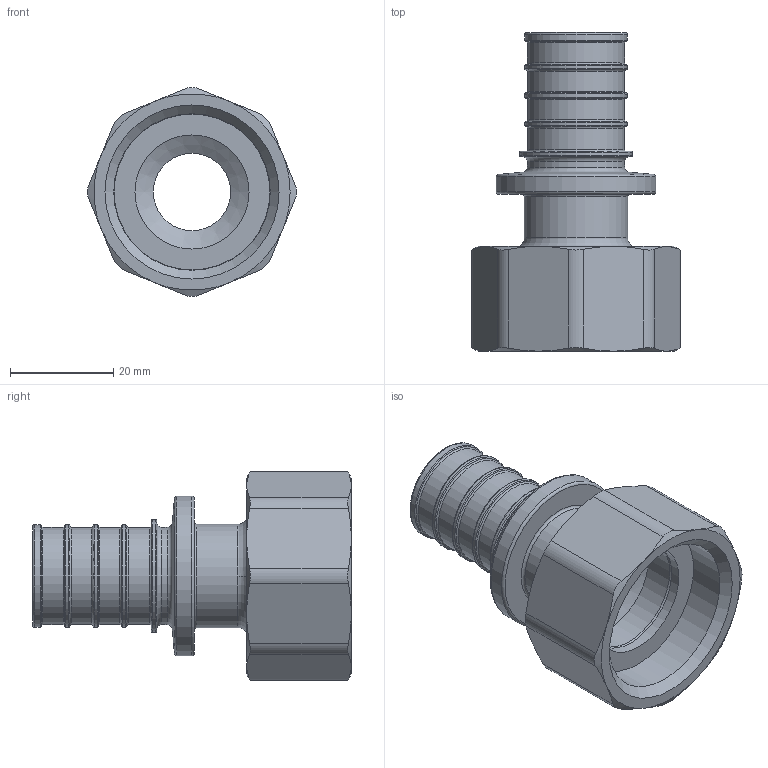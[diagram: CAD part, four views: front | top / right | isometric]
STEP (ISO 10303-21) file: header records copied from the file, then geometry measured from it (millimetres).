
FILE_DESCRIPTION(('STEP AP203'), '1');
FILE_NAME('ﾂﾐ.302612.020.000 ﾑﾁ - VTm.422.G.002506 ﾔ頸. - 裝', '2024-01-23T13:29:50', ('Boss'), (''), 'C3D Converter', 'C3D Toolkit', '');
FILE_SCHEMA(('CONFIG_CONTROL_DESIGN'));
Length unit declared in the file: millimetre
Products named in the file (5): ВР.302612.020.000 СБ; ВР.714651.012; ВР.758421.032; ВР.753612.004; ВР.305323.017
Assembly tree (4 placements, depth 2):
  ВР.302612.020.000 СБ
    ВР.714651.012
    ВР.758421.032
    ВР.753612.004
    ВР.305323.017
Bounding box: 40.47 x 61.73 x 40.47 mm (x, y, z)
Volume: 19507.9 mm3; surface area: 15154.9 mm2
Topology: 4 solids, 4 shells, 101 faces, 223 edges, 128 vertices
Faces by surface type: torus 32, cylinder 29, plane 22, cone 18
Full cylindrical faces by diameter (mm): 15 x1, 18.8 x5, 19.8 x4, 20 x1, 21.8 x1, 22.1 x2, 27.1 x1, 30.2 x2, 30.292 x1, 30.4 x1, 30.9 x1, 33.4 x1
Entity records: 3932 total; most frequent: CARTESIAN_POINT 1806, DIRECTION 406, ORIENTED_EDGE 296, AXIS2_PLACEMENT_3D 195, EDGE_LOOP 172, EDGE_CURVE 148, VERTEX_POINT 120, FACE_OUTER_BOUND 109
